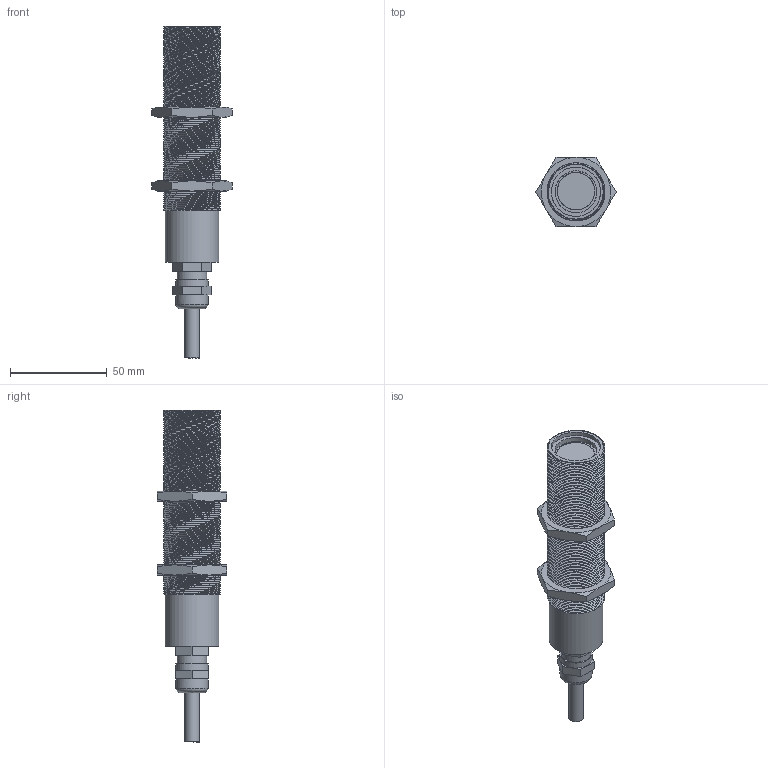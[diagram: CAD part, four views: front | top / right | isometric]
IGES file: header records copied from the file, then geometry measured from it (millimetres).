
Global section: file name: No Iges File Name specified; native system: Autodesk Inventor 2012; preprocessor: AutoDesk Inventor Iges Exporter R2012; author: lzuniga; date: 20121004.093527; units: inch
Bounding box: 41.34 x 35.8 x 171.32 mm (x, y, z)
Volume: 86561.6 mm3; surface area: 23833.4 mm2
Topology: 2 solids, 2 shells, 85 faces, 179 edges, 110 vertices
Faces by surface type: bspline 85
